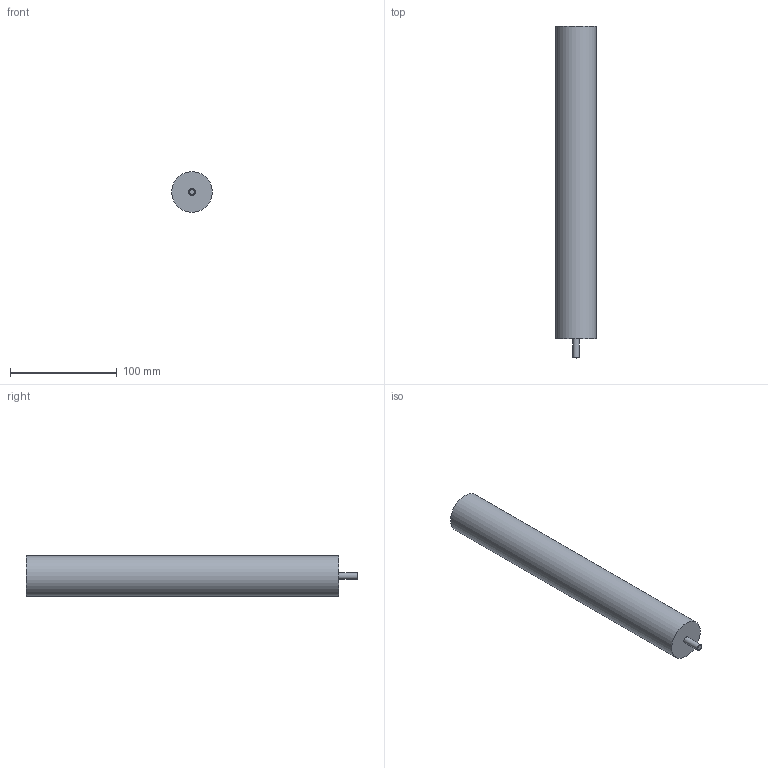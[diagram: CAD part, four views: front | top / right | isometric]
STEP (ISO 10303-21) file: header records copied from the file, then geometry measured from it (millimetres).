
FILE_DESCRIPTION (( 'STEP AP214' ), '1' );
FILE_NAME ('TOP_盓傅.STEP', '2026-10-22T13:11:59', ( '' ), ( '' ), 'SwSTEP 2.0', 'SolidWorks 2022', '' );
FILE_SCHEMA (( 'AUTOMOTIVE_DESIGN' ));
Length unit declared in the file: millimetre
Products named in the file (1): TOP_盓傅
Bounding box: 38 x 311.41 x 38 mm (x, y, z)
Volume: 332864.4 mm3; surface area: 37945.9 mm2
Topology: 1 solids, 1 shells, 8 faces, 13 edges, 8 vertices
Faces by surface type: cylinder 3, plane 3, cone 2
Full cylindrical faces by diameter (mm): 5 x1, 6 x1, 38 x1
Entity records: 210 total; most frequent: DIRECTION 32, CARTESIAN_POINT 23, AXIS2_PLACEMENT_3D 16, EDGE_LOOP 14, ORIENTED_EDGE 14, FACE_OUTER_BOUND 11, ADVANCED_FACE 8, EDGE_CURVE 7
